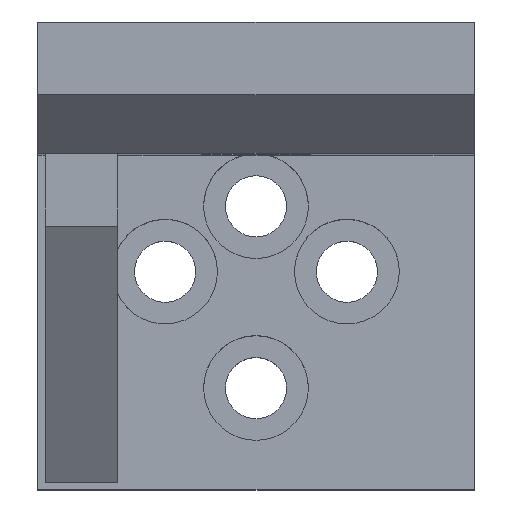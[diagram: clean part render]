
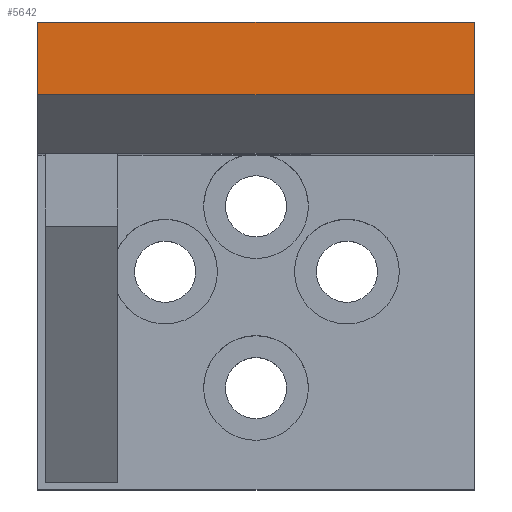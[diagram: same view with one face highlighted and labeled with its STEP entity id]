
A CAD part, top view. The second image highlights one B-rep face of the part: STEP entity #5642.
In plain terms, the highlighted planar face has unit normal (0, 0, 1).
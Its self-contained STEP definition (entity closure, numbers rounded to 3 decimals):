
#534 = DIRECTION ( 'NONE',  ( 1., 0., 0. ) ) ;
#535 = VECTOR ( 'NONE', #534, 1000. ) ;
#536 = CARTESIAN_POINT ( 'NONE',  ( 30., 27., 100. ) ) ;
#537 = LINE ( 'NONE', #536, #535 ) ;
#538 = CARTESIAN_POINT ( 'NONE',  ( 30., 27., 100. ) ) ;
#543 = CARTESIAN_POINT ( 'NONE',  ( 0., 27., 100. ) ) ;
#811 = CARTESIAN_POINT ( 'NONE',  ( 0., 32., 100. ) ) ;
#812 = DIRECTION ( 'NONE',  ( 0., -1., 0. ) ) ;
#813 = VECTOR ( 'NONE', #812, 1000. ) ;
#814 = CARTESIAN_POINT ( 'NONE',  ( 0., 23., 100. ) ) ;
#815 = LINE ( 'NONE', #814, #813 ) ;
#1593 = PLANE ( 'NONE',  #1772 ) ;
#1633 = DIRECTION ( 'NONE',  ( 0., -1., 0. ) ) ;
#1641 = DIRECTION ( 'NONE',  ( 0., 1., 0. ) ) ;
#1642 = VECTOR ( 'NONE', #1641, 1000. ) ;
#1643 = CARTESIAN_POINT ( 'NONE',  ( 30., 23., 100. ) ) ;
#1644 = LINE ( 'NONE', #1643, #1642 ) ;
#1646 = CARTESIAN_POINT ( 'NONE',  ( 30., 32., 100. ) ) ;
#1656 = DIRECTION ( 'NONE',  ( 1., 0., 0. ) ) ;
#1657 = VECTOR ( 'NONE', #1656, 1000. ) ;
#1658 = CARTESIAN_POINT ( 'NONE',  ( 15., 32., 100. ) ) ;
#1659 = LINE ( 'NONE', #1658, #1657 ) ;
#1660 = DIRECTION ( 'NONE',  ( 0., 0., 1. ) ) ;
#1691 = CARTESIAN_POINT ( 'NONE',  ( 30., 23., 100. ) ) ;
#1752 = FACE_OUTER_BOUND ( 'NONE', #5643, .T. ) ;
#1772 = AXIS2_PLACEMENT_3D ( 'NONE', #1691, #1660, #1633 ) ;
#5113 = VERTEX_POINT ( 'NONE', #543 ) ;
#5117 = VERTEX_POINT ( 'NONE', #538 ) ;
#5119 = EDGE_CURVE ( 'NONE', #5113, #5117, #537, .T. ) ;
#5252 = EDGE_CURVE ( 'NONE', #5253, #5113, #815, .T. ) ;
#5253 = VERTEX_POINT ( 'NONE', #811 ) ;
#5642 = ADVANCED_FACE ( 'NONE', ( #1752 ), #1593, .T. ) ;
#5643 = EDGE_LOOP ( 'NONE', ( #5644, #5646, #5647, #5648 ) ) ;
#5644 = ORIENTED_EDGE ( 'NONE', *, *, #5645, .F. ) ;
#5645 = EDGE_CURVE ( 'NONE', #5253, #5653, #1659, .T. ) ;
#5646 = ORIENTED_EDGE ( 'NONE', *, *, #5252, .T. ) ;
#5647 = ORIENTED_EDGE ( 'NONE', *, *, #5119, .T. ) ;
#5648 = ORIENTED_EDGE ( 'NONE', *, *, #5656, .T. ) ;
#5653 = VERTEX_POINT ( 'NONE', #1646 ) ;
#5656 = EDGE_CURVE ( 'NONE', #5117, #5653, #1644, .T. ) ;
